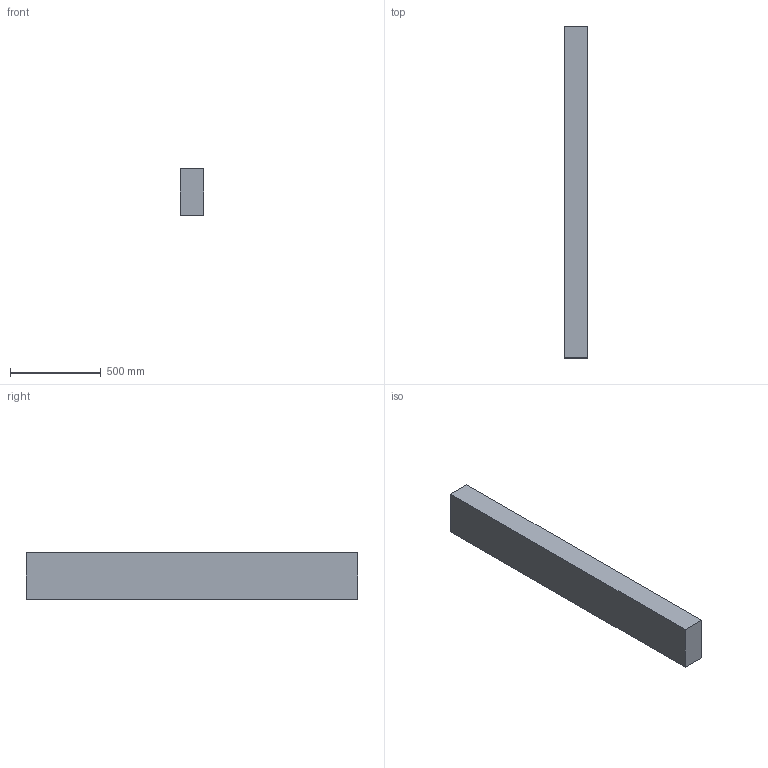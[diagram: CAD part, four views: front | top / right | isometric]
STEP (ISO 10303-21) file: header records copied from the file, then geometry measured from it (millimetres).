
FILE_DESCRIPTION(/* description */ (''),/* implementation_level */ '2;1');
FILE_NAME(/* name */ '5x10x72',/* time_stamp */ '2024-09-20T11:46:23-05:00',/* author */ (''),/* organization */ (''),/* preprocessor_version */ 'ST-DEVELOPER v19.2',/* originating_system */ 'Rhino 8.5',/* authorisation */ '');
FILE_SCHEMA (('CONFIG_CONTROL_DESIGN'));
Length unit declared in the file: inch
Products named in the file (1): Document
Bounding box: 127 x 1828.8 x 254 mm (x, y, z)
Volume: 58993430.4 mm3; surface area: 1458061.6 mm2
Topology: 1 solids, 1 shells, 6 faces, 12 edges, 8 vertices
Faces by surface type: plane 6
Entity records: 226 total; most frequent: CARTESIAN_POINT 40, ORIENTED_EDGE 24, EDGE_CURVE 12, B_SPLINE_CURVE_WITH_KNOTS 12, DIRECTION 10, VERTEX_POINT 8, AXIS2_PLACEMENT_3D 8, ORGANIZATION 7
